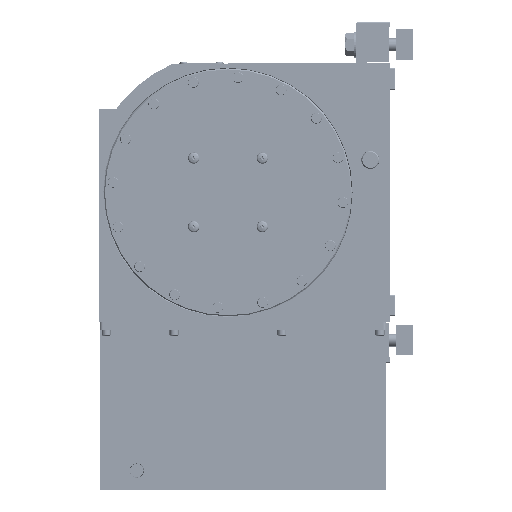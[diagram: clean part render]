
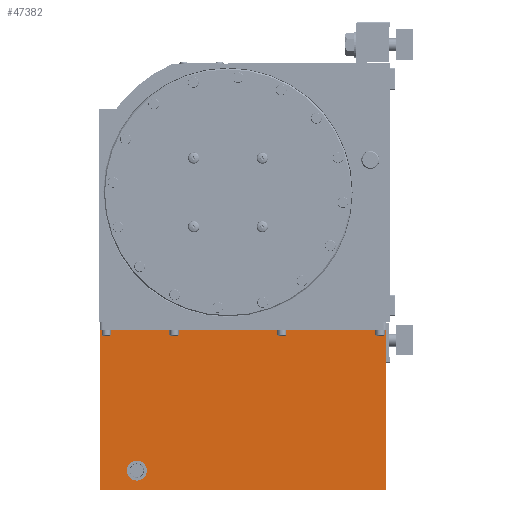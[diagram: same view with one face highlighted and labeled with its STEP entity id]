
A CAD part, left-side view. The second image highlights one B-rep face of the part: STEP entity #47382.
In plain terms, the highlighted planar face has unit normal (-1, 0, 0) as drawn and (0, 0, 1) by its records, which use the part's own axes.
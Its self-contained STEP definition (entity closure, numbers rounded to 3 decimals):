
#2598 = CARTESIAN_POINT ( 'NONE',  ( -138., 231.5, 117.5 ) ) ;
#9273 = VERTEX_POINT ( 'NONE', #114472 ) ;
#9646 = EDGE_CURVE ( 'NONE', #9273, #150486, #32477, .T. ) ;
#13395 = EDGE_CURVE ( 'NONE', #17500, #76298, #25784, .T. ) ;
#15552 = DIRECTION ( 'NONE',  ( -1., 0., 0. ) ) ;
#17001 = VECTOR ( 'NONE', #77257, 1000. ) ;
#17500 = VERTEX_POINT ( 'NONE', #21662 ) ;
#21662 = CARTESIAN_POINT ( 'NONE',  ( -156., 0., 117.5 ) ) ;
#24050 = CARTESIAN_POINT ( 'NONE',  ( -156., 266., 117.5 ) ) ;
#25450 = FACE_OUTER_BOUND ( 'NONE', #37759, .T. ) ;
#25784 = LINE ( 'NONE', #27942, #154926 ) ;
#27942 = CARTESIAN_POINT ( 'NONE',  ( -156., 0., 117.5 ) ) ;
#30619 = ORIENTED_EDGE ( 'NONE', *, *, #96184, .F. ) ;
#31339 = CARTESIAN_POINT ( 'NONE',  ( -156., 0., 117.5 ) ) ;
#31496 = AXIS2_PLACEMENT_3D ( 'NONE', #33710, #123926, #46670 ) ;
#32477 = CIRCLE ( 'NONE', #31496, 9.25 ) ;
#33710 = CARTESIAN_POINT ( 'NONE',  ( -138., 231.5, 117.5 ) ) ;
#37759 = EDGE_LOOP ( 'NONE', ( #86653, #30619, #78705, #51683 ) ) ;
#40910 = DIRECTION ( 'NONE',  ( 1., 0., 0. ) ) ;
#42751 = CARTESIAN_POINT ( 'NONE',  ( -8., 0., 117.5 ) ) ;
#44295 = PLANE ( 'NONE',  #128000 ) ;
#46670 = DIRECTION ( 'NONE',  ( -1., 0., 0. ) ) ;
#47382 = ADVANCED_FACE ( 'NONE', ( #128391, #25450 ), #44295, .F. ) ;
#47581 = EDGE_LOOP ( 'NONE', ( #83769, #149085 ) ) ;
#51271 = LINE ( 'NONE', #154501, #17001 ) ;
#51683 = ORIENTED_EDGE ( 'NONE', *, *, #13395, .T. ) ;
#57282 = DIRECTION ( 'NONE',  ( -1., 0., 0. ) ) ;
#62716 = LINE ( 'NONE', #24050, #66757 ) ;
#66757 = VECTOR ( 'NONE', #114304, 1000. ) ;
#69935 = CARTESIAN_POINT ( 'NONE',  ( -128.75, 231.5, 117.5 ) ) ;
#71820 = AXIS2_PLACEMENT_3D ( 'NONE', #2598, #92942, #15552 ) ;
#76298 = VERTEX_POINT ( 'NONE', #42751 ) ;
#77257 = DIRECTION ( 'NONE',  ( 0., 1., 0. ) ) ;
#78705 = ORIENTED_EDGE ( 'NONE', *, *, #136239, .F. ) ;
#82713 = DIRECTION ( 'NONE',  ( 0., 0., -1. ) ) ;
#83608 = VECTOR ( 'NONE', #161784, 1000. ) ;
#83769 = ORIENTED_EDGE ( 'NONE', *, *, #9646, .F. ) ;
#84562 = CARTESIAN_POINT ( 'NONE',  ( -156., 0., 117.5 ) ) ;
#86653 = ORIENTED_EDGE ( 'NONE', *, *, #157383, .T. ) ;
#87627 = LINE ( 'NONE', #84562, #83608 ) ;
#87806 = EDGE_CURVE ( 'NONE', #150486, #9273, #154063, .T. ) ;
#89369 = VERTEX_POINT ( 'NONE', #148934 ) ;
#92942 = DIRECTION ( 'NONE',  ( 0., 0., 1. ) ) ;
#96184 = EDGE_CURVE ( 'NONE', #89369, #132439, #62716, .T. ) ;
#114304 = DIRECTION ( 'NONE',  ( 1., 0., 0. ) ) ;
#114472 = CARTESIAN_POINT ( 'NONE',  ( -147.25, 231.5, 117.5 ) ) ;
#123926 = DIRECTION ( 'NONE',  ( 0., 0., 1. ) ) ;
#128000 = AXIS2_PLACEMENT_3D ( 'NONE', #31339, #82713, #57282 ) ;
#128391 = FACE_BOUND ( 'NONE', #47581, .T. ) ;
#132439 = VERTEX_POINT ( 'NONE', #136035 ) ;
#136035 = CARTESIAN_POINT ( 'NONE',  ( -8., 266., 117.5 ) ) ;
#136239 = EDGE_CURVE ( 'NONE', #17500, #89369, #87627, .T. ) ;
#148934 = CARTESIAN_POINT ( 'NONE',  ( -156., 266., 117.5 ) ) ;
#149085 = ORIENTED_EDGE ( 'NONE', *, *, #87806, .F. ) ;
#150486 = VERTEX_POINT ( 'NONE', #69935 ) ;
#154063 = CIRCLE ( 'NONE', #71820, 9.25 ) ;
#154501 = CARTESIAN_POINT ( 'NONE',  ( -8., 0., 117.5 ) ) ;
#154926 = VECTOR ( 'NONE', #40910, 1000. ) ;
#157383 = EDGE_CURVE ( 'NONE', #76298, #132439, #51271, .T. ) ;
#161784 = DIRECTION ( 'NONE',  ( 0., 1., 0. ) ) ;
